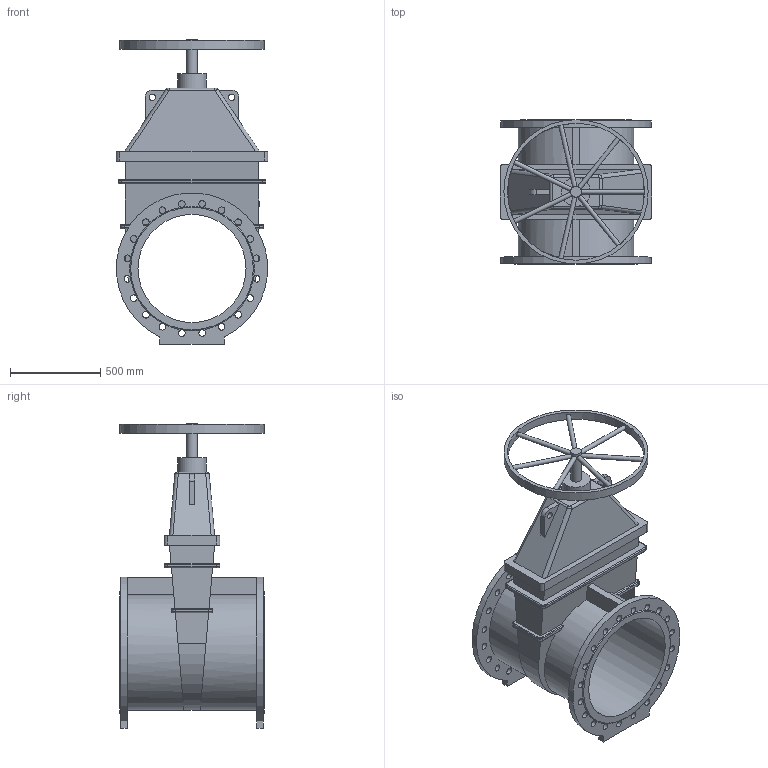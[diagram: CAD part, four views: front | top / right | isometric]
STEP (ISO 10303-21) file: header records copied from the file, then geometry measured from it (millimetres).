
FILE_DESCRIPTION(('STEP AP203'), '1');
FILE_NAME('Çàäâèæêà 47GV DN600 PN16_L800_W800 ñ ìàõîâèêîì', '', ('UNSPECIFIED'), ('UNSPECIFIED'), 'ASCON STEP Converter 1.6', 'ASCON Math Kernel', '');
FILE_SCHEMA(('CONFIG_CONTROL_DESIGN'));
Length unit declared in the file: millimetre
Bounding box: 840 x 800 x 1689 mm (x, y, z)
Volume: 174068842 mm3; surface area: 6699925.6 mm2
Topology: 1 solids, 1 shells, 219 faces, 677 edges, 436 vertices
Faces by surface type: cylinder 108, plane 85, bspline 16, torus 8, cone 2
Full cylindrical faces by diameter (mm): 25 x7, 36 x2, 37 x40, 60 x1, 160 x1, 600 x1, 760 x1, 800 x1
Entity records: 14971 total; most frequent: CARTESIAN_POINT 7235, ORIENTED_EDGE 1240, DIRECTION 1202, EDGE_CURVE 620, AXIS2_PLACEMENT_3D 482, VERTEX_POINT 436, EDGE_LOOP 352, FACE_BOUND 283
